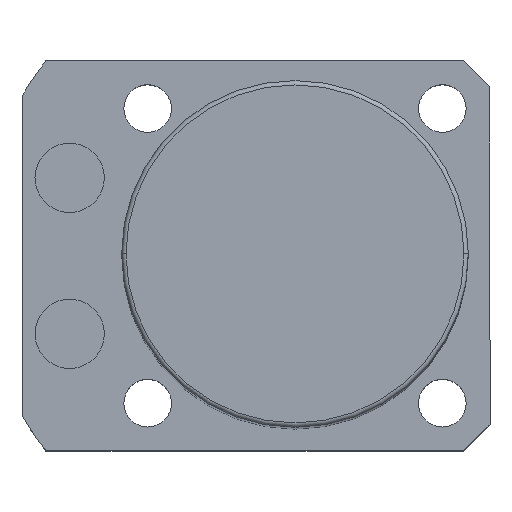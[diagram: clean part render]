
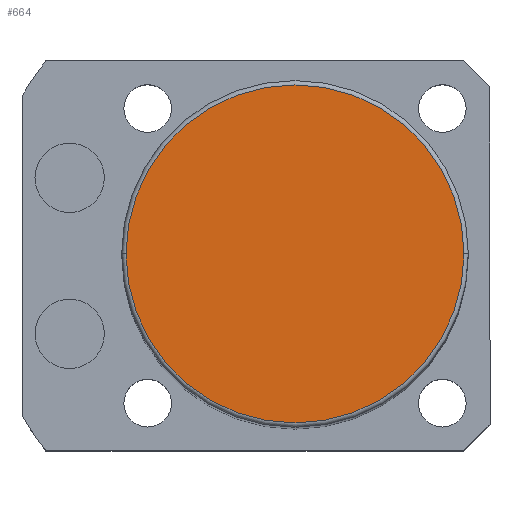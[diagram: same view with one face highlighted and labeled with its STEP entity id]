
A CAD part, top view. The second image highlights one B-rep face of the part: STEP entity #664.
In plain terms, the highlighted planar face has unit normal (0, 0, 1).
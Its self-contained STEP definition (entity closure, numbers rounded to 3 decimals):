
#50 = EDGE_LOOP ( 'NONE', ( #2154, #1635 ) ) ;
#73 = VERTEX_POINT ( 'NONE', #2117 ) ;
#98 = AXIS2_PLACEMENT_3D ( 'NONE', #1030, #2013, #1287 ) ;
#194 = EDGE_CURVE ( 'NONE', #496, #73, #334, .T. ) ;
#334 = CIRCLE ( 'NONE', #683, 19.5 ) ;
#496 = VERTEX_POINT ( 'NONE', #2339 ) ;
#514 = PLANE ( 'NONE',  #98 ) ;
#664 = ADVANCED_FACE ( 'NONE', ( #2364 ), #514, .T. ) ;
#683 = AXIS2_PLACEMENT_3D ( 'NONE', #988, #978, #1906 ) ;
#939 = AXIS2_PLACEMENT_3D ( 'NONE', #974, #1924, #981 ) ;
#974 = CARTESIAN_POINT ( 'NONE',  ( 0., 0., 138.5 ) ) ;
#978 = DIRECTION ( 'NONE',  ( 0., 0., 1. ) ) ;
#981 = DIRECTION ( 'NONE',  ( 1., 0., 0. ) ) ;
#988 = CARTESIAN_POINT ( 'NONE',  ( 0., 0., 138.5 ) ) ;
#1030 = CARTESIAN_POINT ( 'NONE',  ( 0., 0., 138.5 ) ) ;
#1287 = DIRECTION ( 'NONE',  ( 1., 0., 0. ) ) ;
#1488 = EDGE_CURVE ( 'NONE', #73, #496, #2279, .T. ) ;
#1635 = ORIENTED_EDGE ( 'NONE', *, *, #1488, .T. ) ;
#1906 = DIRECTION ( 'NONE',  ( 1., 0., 0. ) ) ;
#1924 = DIRECTION ( 'NONE',  ( 0., 0., 1. ) ) ;
#2013 = DIRECTION ( 'NONE',  ( 0., 0., 1. ) ) ;
#2117 = CARTESIAN_POINT ( 'NONE',  ( -19.5, 0., 138.5 ) ) ;
#2154 = ORIENTED_EDGE ( 'NONE', *, *, #194, .T. ) ;
#2279 = CIRCLE ( 'NONE', #939, 19.5 ) ;
#2339 = CARTESIAN_POINT ( 'NONE',  ( 19.5, 0., 138.5 ) ) ;
#2364 = FACE_OUTER_BOUND ( 'NONE', #50, .T. ) ;
